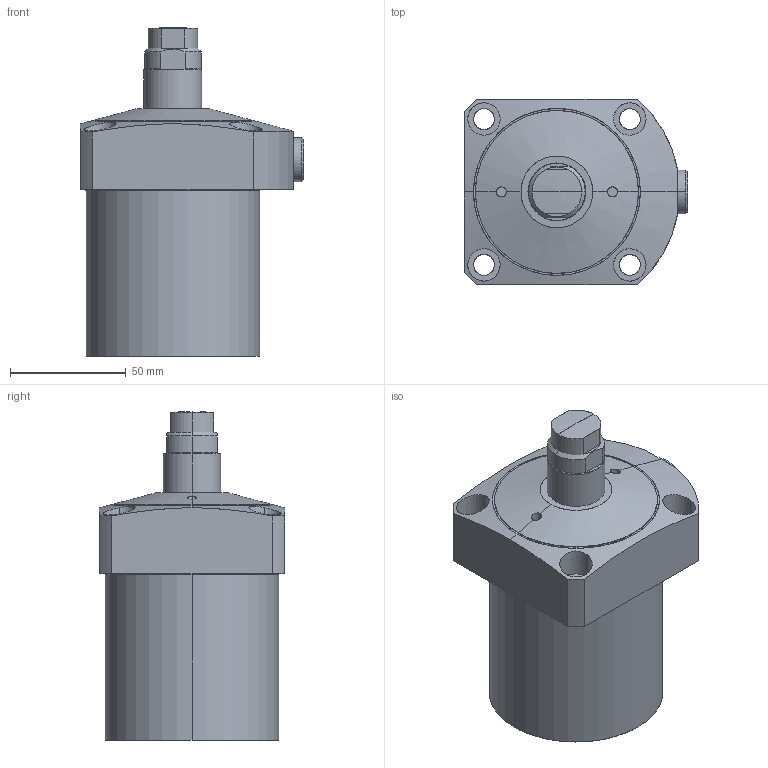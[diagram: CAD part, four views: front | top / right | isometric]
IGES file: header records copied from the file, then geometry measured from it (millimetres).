
Start section: SolidWorks IGES file using analytic representation for surfaces
Global section: file name: D:\abhilash\nijil\cylinder\Clasys1\lcE\cx\752\pt\0203-0501-E.IGS; native system: SolidWorks 2010; preprocessor: SolidWorks 2010; author: nidheesh; date: 130730.121650; units: millimetre
Bounding box: 96.5 x 80 x 142 mm (x, y, z)
Surface area: 46196.3 mm2 (no closed solid volume)
Topology: 0 solids, 0 shells, 83 faces, 1663 edges, 1661 vertices
Faces by surface type: revolution 50, bspline 33
